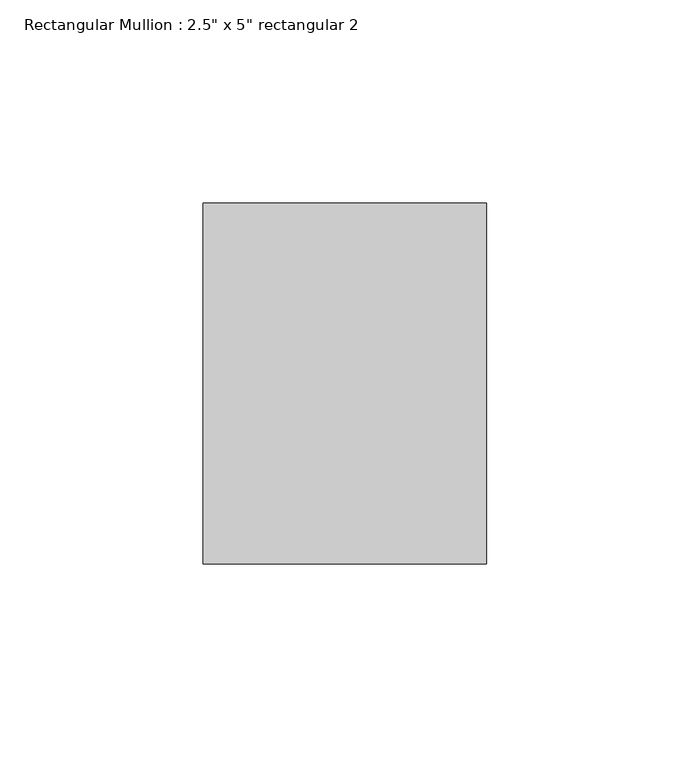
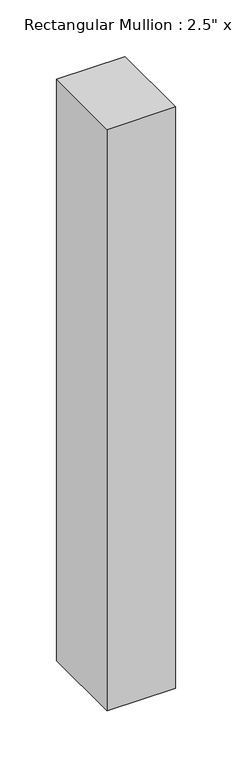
"""IFC4 building model written with IfcOpenShell, lengths in millimetres: member geometry."""

import ifcopenshell
import ifcopenshell.guid

model = None  # the IFC model being written
_history = None  # IfcOwnerHistory: only IFC2X3 demands one
_inside = {}  # id of a spatial element -> (the spatial element, [elements in it])
_under = {}  # id of a project, library or spatial element -> (it, [spatial elements below it])
_declared = {}  # id of a project -> (the project, [libraries it declares])
_typed = {}  # id of a type object -> (the type object, [elements of that type])
_made_of = {}  # id of a material, layer set ... -> (it, [elements and type objects made of it])


def new_model(schema):
    """Start an empty IFC model of exactly this schema.

    Asked for "IFC4X3", IfcOpenShell would pick the latest addendum, in which some entities
    have other attributes; the version numbers below select the first issue.
    IFC2X3 requires an IfcOwnerHistory on every rooted entity: one is made here for all.
    """
    global model, _history
    if schema == "IFC4X3":
        model = ifcopenshell.file(schema_version=(4, 3, 0, 0))
    else:
        model = ifcopenshell.file(schema=schema)
    _inside.clear()
    _under.clear()
    _declared.clear()
    _typed.clear()
    _made_of.clear()
    _history = None
    if model.schema == "IFC2X3":
        org = make("IfcOrganization", Name="unknown")
        user = make(
            "IfcPersonAndOrganization",
            ThePerson=make("IfcPerson", FamilyName="unknown"),
            TheOrganization=org,
        )
        app = make(
            "IfcApplication",
            ApplicationDeveloper=org,
            Version="unknown",
            ApplicationFullName="unknown",
            ApplicationIdentifier="unknown",
        )
        _history = make(
            "IfcOwnerHistory",
            OwningUser=user,
            OwningApplication=app,
            ChangeAction="ADDED",
            CreationDate=0,
        )
    return model


def make(cls, **values):
    """One entity of the class cls with the attributes given. An attribute that is None is left unset."""
    return model.create_entity(
        cls, **{name: value for name, value in values.items() if value is not None}
    )


def rooted(cls, **values):
    """An entity with a GlobalId (a new one), such as an element, a storey or a relation."""
    return make(cls, GlobalId=ifcopenshell.guid.new(), OwnerHistory=_history, **values)


def si_unit(unit_type, name, prefix=None):
    """IfcSIUnit, for example si_unit("LENGTHUNIT", "METRE", prefix="MILLI")."""
    return make("IfcSIUnit", UnitType=unit_type, Prefix=prefix, Name=name)


def assignment(units):
    """IfcUnitAssignment: the units of a project."""
    return None if units is None else make("IfcUnitAssignment", Units=units)


def point(xyz):
    """IfcCartesianPoint."""
    return None if xyz is None else make("IfcCartesianPoint", Coordinates=xyz)


def direction(xyz):
    """IfcDirection."""
    return None if xyz is None else make("IfcDirection", DirectionRatios=xyz)


def frame(location, z_axis=None, x_axis=None):
    """IfcAxis2Placement3D, a coordinate frame: its origin and axes. An axis left out is left unset."""
    return make(
        "IfcAxis2Placement3D",
        Location=point(location),
        Axis=direction(z_axis),
        RefDirection=direction(x_axis),
    )


def origin():
    """The frame at (0, 0, 0) with its axes left unset."""
    return frame((0.0, 0.0, 0.0))


def place(relative_to, where):
    """IfcLocalPlacement: puts the frame where relative to a parent placement (None: the world)."""
    return make(
        "IfcLocalPlacement", PlacementRelTo=relative_to, RelativePlacement=where
    )


def context(
    kind, dimensions, precision=None, world=None, true_north=None, identifier=None
):
    """IfcGeometricRepresentationContext, for example the 3D "Model" context."""
    return make(
        "IfcGeometricRepresentationContext",
        ContextIdentifier=identifier,
        ContextType=kind,
        CoordinateSpaceDimension=dimensions,
        Precision=precision,
        WorldCoordinateSystem=world,
        TrueNorth=true_north,
    )


def project(units=None, contexts=None):
    """IfcProject with its units and contexts."""
    return rooted(
        "IfcProject",
        Name="project",
        RepresentationContexts=contexts,
        UnitsInContext=assignment(units),
    )


def spatial(cls, under=None, at=None, **own):
    """A site, building, storey or space (cls), placed at a placement, below another one or the project."""
    s = rooted(cls, ObjectPlacement=at, **own)
    if under is not None:
        _under.setdefault(under.id(), (under, []))[1].append(s)
    return s


def polyline(points):
    """IfcPolyline through the points."""
    return make("IfcPolyline", Points=[point(p) for p in points])


def outline(outer, holes=None, kind="AREA"):
    """IfcArbitraryClosedProfileDef: a profile drawn as a closed curve; with holes, ...WithVoids."""
    if holes is None:
        return make("IfcArbitraryClosedProfileDef", ProfileType=kind, OuterCurve=outer)
    return make(
        "IfcArbitraryProfileDefWithVoids",
        ProfileType=kind,
        OuterCurve=outer,
        InnerCurves=holes,
    )


def extrude(swept, where, along, depth):
    """IfcExtrudedAreaSolid: the profile swept, set in the frame where, extruded along a direction by depth."""
    return make(
        "IfcExtrudedAreaSolid",
        SweptArea=swept,
        Position=where,
        ExtrudedDirection=direction(along),
        Depth=depth,
    )


def shape(context_of_items, identifier, shape_type, items):
    """IfcShapeRepresentation: the items that make up one representation, for example the "Body"."""
    return make(
        "IfcShapeRepresentation",
        ContextOfItems=context_of_items,
        RepresentationIdentifier=identifier,
        RepresentationType=shape_type,
        Items=items,
    )


def source(mapping_origin, context_of_items, identifier, shape_type, items):
    """IfcRepresentationMap: a shape defined once, which mapped items show again and again."""
    return make(
        "IfcRepresentationMap",
        MappingOrigin=mapping_origin,
        MappedRepresentation=shape(context_of_items, identifier, shape_type, items),
    )


def transform(
    local_origin,
    x_axis=None,
    y_axis=None,
    z_axis=None,
    scale=None,
    scale2=None,
    scale3=None,
    uniform=True,
):
    """IfcCartesianTransformationOperator3D, or its non-uniform kind. x_axis, y_axis, z_axis: its Axis1, 2, 3."""
    if uniform:
        return make(
            "IfcCartesianTransformationOperator3D",
            Axis1=direction(x_axis),
            Axis2=direction(y_axis),
            LocalOrigin=point(local_origin),
            Scale=scale,
            Axis3=direction(z_axis),
        )
    return make(
        "IfcCartesianTransformationOperator3DnonUniform",
        Axis1=direction(x_axis),
        Axis2=direction(y_axis),
        LocalOrigin=point(local_origin),
        Scale=scale,
        Axis3=direction(z_axis),
        Scale2=scale2,
        Scale3=scale3,
    )


def mapped(mapping_source, mapping_target):
    """IfcMappedItem: shows the shape of a source again, moved by a transform."""
    return make(
        "IfcMappedItem", MappingSource=mapping_source, MappingTarget=mapping_target
    )


def made_of(thing, what):
    """Note that an element or type object is made of a material, layer set ...; save() writes the relation."""
    if what is not None:
        _made_of.setdefault(what.id(), (what, []))[1].append(thing)
    return thing


def element(
    cls,
    number,
    at=None,
    inside=None,
    cuts=None,
    type_object=None,
    material=None,
    context=None,
    identifier="Body",
    shape_type=None,
    held_by="IfcProductDefinitionShape",
    body=None,
    shapes=None,
    **own,
):
    """One element of the class cls, such as IfcWall. Its Tag is "e" and its number.

    at: its placement. inside: the storey or other place that contains it. cuts: it is an
    opening in that element (IfcRelVoidsElement). A single representation is given by context,
    identifier, shape_type and body (its items); several are given by shapes. held_by: the class
    of the entity that holds the representations. save() writes the other relations.
    """
    e = rooted(cls, Tag="e%d" % number, ObjectPlacement=at, **own)
    if body is not None:
        shapes = [shape(context, identifier, shape_type, body)]
    if shapes is not None:
        e.Representation = make(held_by, Representations=shapes)
    if inside is not None:
        _inside.setdefault(inside.id(), (inside, []))[1].append(e)
    if cuts is not None:
        rooted(
            "IfcRelVoidsElement", RelatingBuildingElement=cuts, RelatedOpeningElement=e
        )
    if type_object is not None:
        _typed.setdefault(type_object.id(), (type_object, []))[1].append(e)
    return made_of(e, material)


def aggregate(whole, parts):
    """IfcRelAggregates: a whole, such as a stair, and the parts it consists of."""
    return rooted("IfcRelAggregates", RelatingObject=whole, RelatedObjects=parts)


def save(model, path):
    """Write the relations noted so far, then the file.

    IfcRelAggregates (storeys below a building ...), IfcRelContainedInSpatialStructure (elements
    in a storey), IfcRelDefinesByType, IfcRelAssociatesMaterial and IfcRelDeclares: one each for
    every whole, place, type object, material and project.
    """
    for whole, parts in _under.values():
        aggregate(whole, parts)
    for where, things in _inside.values():
        rooted(
            "IfcRelContainedInSpatialStructure",
            RelatedElements=things,
            RelatingStructure=where,
        )
    for kind, things in _typed.values():
        rooted("IfcRelDefinesByType", RelatedObjects=things, RelatingType=kind)
    for what, things in _made_of.values():
        rooted("IfcRelAssociatesMaterial", RelatedObjects=things, RelatingMaterial=what)
    for by, libraries in _declared.values():
        rooted("IfcRelDeclares", RelatingContext=by, RelatedDefinitions=libraries)
    model.write(path)


def member_7ba8fbd5(model_context):
    return source(origin(), model_context, "Body", "SweptSolid", [
        extrude(outline(polyline([(0.0, 44.45), (0.0, -44.45), (-69.85, -44.45), (-69.85, 44.45), (0.0, 44.45)])), frame((0.0, 0.0, -626.0705944), z_axis=(0.0, 0.0, 1.0), x_axis=(1.0, 0.0, 0.0)), (0.0, 0.0, 1.0), 626.0705944),
    ])


if __name__ == "__main__":
    model = new_model("IFC4")
    model_context = context("Model", 3, world=origin())
    ifc_project = project(units=[si_unit("LENGTHUNIT", "METRE", prefix="MILLI")], contexts=[model_context])
    site = spatial("IfcSite", under=ifc_project)
    building = spatial("IfcBuilding", under=site)
    placement = place(None, origin())
    member_shape = member_7ba8fbd5(model_context)
    element("IfcMember", 1, ObjectType="Rectangular Mullion : 2.5\" x 5\" rectangular 2", at=placement, inside=building, context=model_context, shape_type="MappedRepresentation", body=[
        mapped(member_shape, transform((0.0, 0.0, 0.0), x_axis=(1.0, 0.0, 0.0), y_axis=(0.0, 1.0, 0.0), z_axis=(0.0, 0.0, 1.0))),
    ])
    save(model, "model.ifc")
